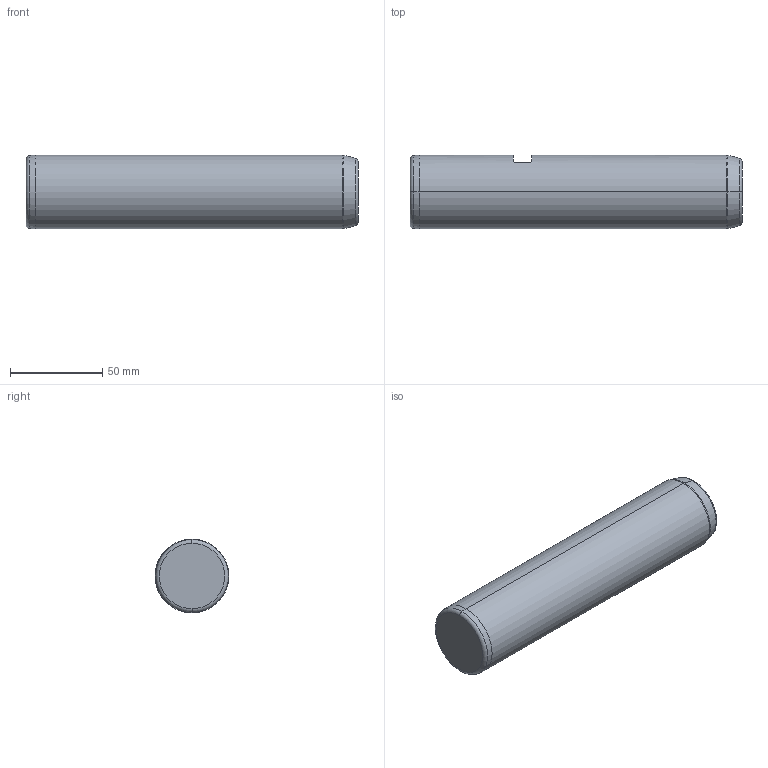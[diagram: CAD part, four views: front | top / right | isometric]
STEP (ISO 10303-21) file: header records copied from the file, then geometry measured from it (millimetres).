
FILE_DESCRIPTION (( 'STEP AP214' ), '1' );
FILE_NAME ('SP202-08-40-180.STEP', '2020-11-03T14:17:08', ( '' ), ( '' ), 'SwSTEP 2.0', 'SolidWorks 2018', '' );
FILE_SCHEMA (( 'AUTOMOTIVE_DESIGN' ));
Length unit declared in the file: millimetre
Products named in the file (1): SP202-08-40-180
Bounding box: 180 x 40 x 40 mm (x, y, z)
Volume: 219975.3 mm3; surface area: 26013.2 mm2
Topology: 1 solids, 1 shells, 26 faces, 54 edges, 31 vertices
Faces by surface type: cylinder 8, cone 6, torus 6, plane 6
Entity records: 740 total; most frequent: CARTESIAN_POINT 146, DIRECTION 132, ORIENTED_EDGE 104, AXIS2_PLACEMENT_3D 57, EDGE_CURVE 52, VERTEX_POINT 31, CIRCLE 30, EDGE_LOOP 29
